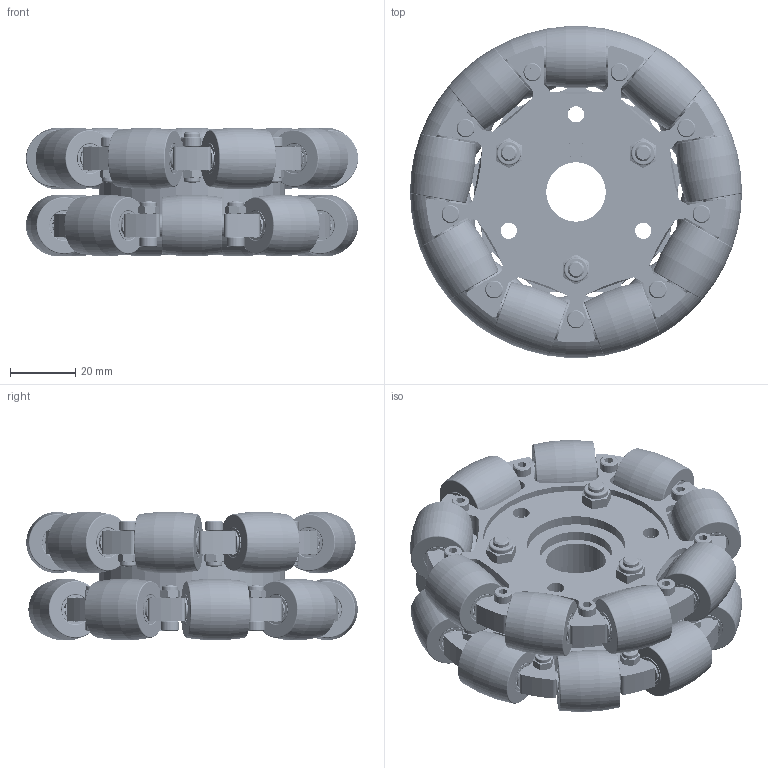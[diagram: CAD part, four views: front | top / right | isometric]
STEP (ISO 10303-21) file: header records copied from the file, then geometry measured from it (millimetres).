
FILE_DESCRIPTION (( 'STEP AP214' ), '1' );
FILE_NAME ('MO112.STEP', '2016-10-21T09:18:58', ( '微软用户' ), ( '微软中国' ), 'SwSTEP 2.0', 'SolidWorks 2015', '' );
FILE_SCHEMA (( 'AUTOMOTIVE_DESIGN' ));
Length unit declared in the file: millimetre
Products named in the file (14): 4寸90度9分车轮-弧形轮(垫片); 4寸90度9分车轮-弧形轮夹板; MO112; 滅侂蹟譫M5; 戚芛蹟佪M5; 4寸90度9分车轮-中心胶; 4寸90度9分车轮-多件弧形轮组合; 零件7^4寸90度9分车轮-多件弧形轮组合; 戚芛蹟佪(M3X12) ; 滅侂蹟譫M3; 4寸90度9分车轮-单件弧形轮组合(垫片); す菜朴3; 旮僱⑩粣創603zz; 4寸90度9分车轮-弧形轮轴
Assembly tree (44 placements, depth 4):
  MO112
    4寸90度9分车轮-多件弧形轮组合  x2
      4寸90度9分车轮-弧形轮夹板
      4寸90度9分车轮-单件弧形轮组合(垫片)
        4寸90度9分车轮-弧形轮(垫片)
        4寸90度9分车轮-弧形轮轴
        旮僱⑩粣創603zz  x2
        す菜朴3  x2
      滅侂蹟譫M3
      戚芛蹟佪(M3X12) 
      零件7^4寸90度9分车轮-多件弧形轮组合
    4寸90度9分车轮-中心胶
    戚芛蹟佪M5  x3
    滅侂蹟譫M5  x3
Bounding box: 101.6 x 101.42 x 39.32 mm (x, y, z)
Volume: 153936.7 mm3; surface area: 109261 mm2
Topology: 443 solids, 443 shells, 3496 faces, 8490 edges, 5458 vertices
Faces by surface type: cylinder 1316, plane 968, sphere 504, torus 438, cone 270
Entity records: 16952 total; most frequent: DIRECTION 3020, CARTESIAN_POINT 2940, ORIENTED_EDGE 2660, EDGE_CURVE 1330, AXIS2_PLACEMENT_3D 1164, VERTEX_POINT 876, LINE 692, VECTOR 692
